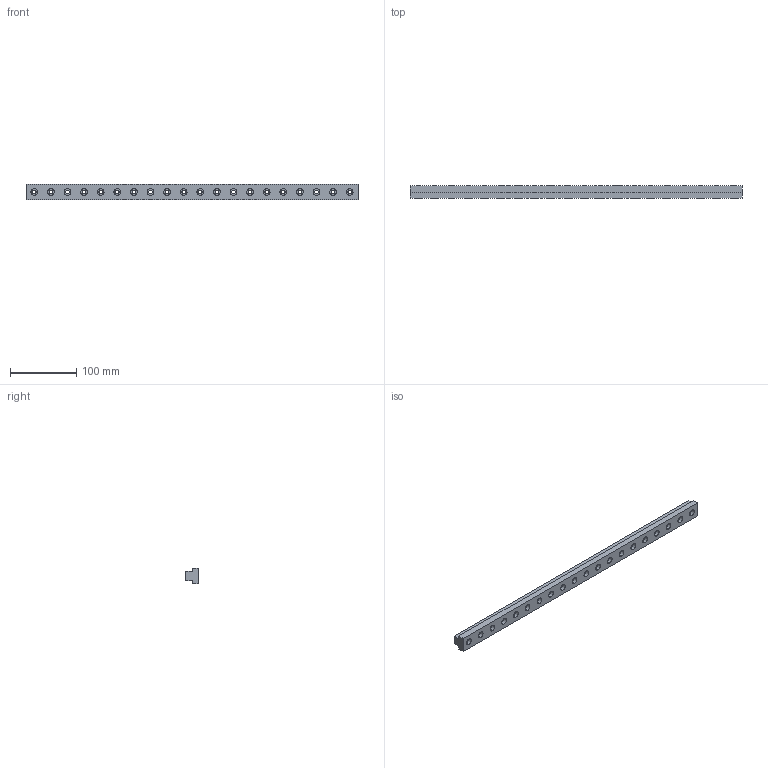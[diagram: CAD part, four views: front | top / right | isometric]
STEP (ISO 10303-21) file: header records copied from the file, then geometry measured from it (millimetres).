
FILE_DESCRIPTION(('CATIA V5 STEP Exchange'),'2;1');
FILE_NAME('C:\Users\Utente\Desktop\IO LAVORO\3D X SITO CF\X SITO\PLASTICA\CF-GT\CF-GT-09-500.stp','2021-02-21T16:15:09+00:00',('none'),('none'),'CATIA Version 5 Release 20 GA (IN-10)','CATIA V5 STEP AP203','none');
FILE_SCHEMA(('CONFIG_CONTROL_DESIGN'));
Length unit declared in the file: millimetre
Products named in the file (1): CF-GT-09-500
Bounding box: 500 x 19 x 24 mm (x, y, z)
Volume: 162726.8 mm3; surface area: 50939.2 mm2
Topology: 1 solids, 1 shells, 110 faces, 424 edges, 336 vertices
Faces by surface type: cylinder 80, plane 30
Entity records: 5650 total; most frequent: CARTESIAN_POINT 2071, ORIENTED_EDGE 848, DIRECTION 524, EDGE_CURVE 424, VERTEX_POINT 336, AXIS2_PLACEMENT_3D 311, CIRCLE 200, EDGE_LOOP 170
